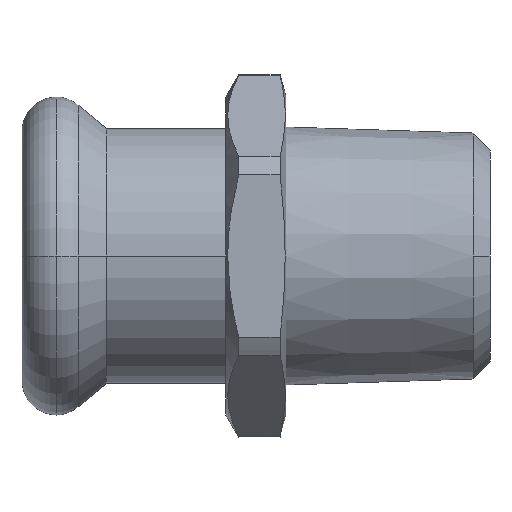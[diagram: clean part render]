
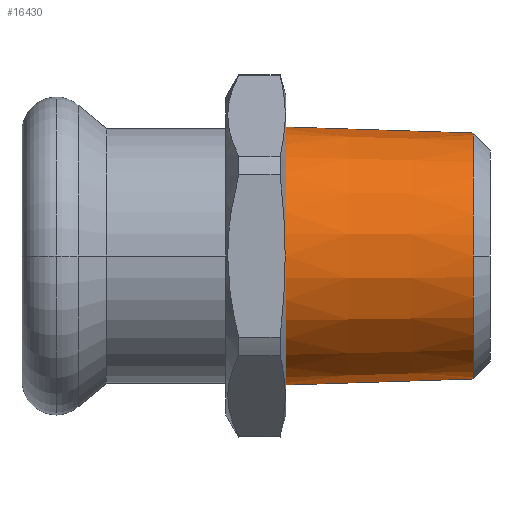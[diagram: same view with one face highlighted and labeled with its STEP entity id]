
A CAD part, front view. The second image highlights one B-rep face of the part: STEP entity #16430.
In plain terms, the highlighted conical face has half-angle 1.853 degrees and reference radius 10.75 mm.
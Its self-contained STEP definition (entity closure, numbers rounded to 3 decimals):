
#410=CARTESIAN_POINT('',(-68.571,21.24,
0.));
#420=DIRECTION('',(-1.,0.,0.));
#430=DIRECTION('',(0.,0.,1.));
#440=AXIS2_PLACEMENT_3D('',#410,#420,#430);
#450=CONICAL_SURFACE('',#440,10.75,0.032);
#460=CARTESIAN_POINT('',(-68.571,21.24,10.75));
#470=DIRECTION('',(-0.999,0.,0.032));
#480=VECTOR('',#470,332.447);
#490=LINE('',#460,#480);
#500=CARTESIAN_POINT('',(-52.97,21.24,
10.245));
#510=VERTEX_POINT('',#500);
#520=CARTESIAN_POINT('',(-68.571,21.24,10.75));
#530=VERTEX_POINT('',#520);
#540=EDGE_CURVE('',#510,#530,#490,.T.);
#560=CARTESIAN_POINT('',(-68.571,21.24,
0.));
#570=DIRECTION('',(-1.,0.,0.));
#580=DIRECTION('',(0.,-0.866,0.5));
#590=AXIS2_PLACEMENT_3D('',#560,#570,#580);
#600=CIRCLE('',#590,10.75);
#650=CARTESIAN_POINT('',(-68.571,21.24,-10.75));
#660=VERTEX_POINT('',#650);
#690=CARTESIAN_POINT('',(-68.571,21.24,-10.75));
#700=DIRECTION('',(-0.999,0.,
-0.032));
#710=VECTOR('',#700,332.447);
#720=LINE('',#690,#710);
#730=CARTESIAN_POINT('',(-52.97,21.24,
-10.245));
#740=VERTEX_POINT('',#730);
#750=EDGE_CURVE('',#740,#660,#720,.T.);
#770=CARTESIAN_POINT('',(-52.97,21.24,
0.));
#780=DIRECTION('',(-1.,0.,0.));
#790=DIRECTION('',(0.,0.,-1.));
#800=AXIS2_PLACEMENT_3D('',#770,#780,#790);
#810=CIRCLE('',#800,10.245);
#2300=CARTESIAN_POINT('',(-52.97,10.994,
0.));
#2310=VERTEX_POINT('',#2300);
#2340=EDGE_CURVE('',#2310,#510,#810,.T.);
#6280=EDGE_CURVE('',#660,#530,#600,.T.);
#16350=ORIENTED_EDGE('',*,*,#6280,.F.);
#16360=ORIENTED_EDGE('',*,*,#540,.T.);
#16370=ORIENTED_EDGE('',*,*,#2340,.T.);
#16380=EDGE_CURVE('',#740,#2310,#810,.T.);
#16390=ORIENTED_EDGE('',*,*,#16380,.T.);
#16400=ORIENTED_EDGE('',*,*,#750,.F.);
#16410=EDGE_LOOP('',(#16400,#16390,#16370,#16360,#16350));
#16420=FACE_OUTER_BOUND('',#16410,.T.);
#16430=ADVANCED_FACE('',(#16420),#450,.T.);
